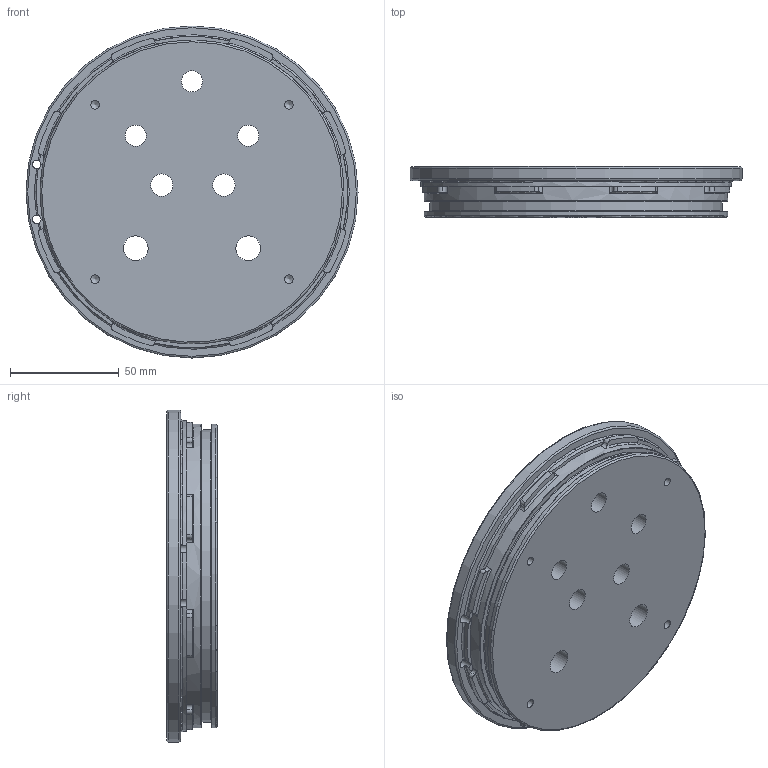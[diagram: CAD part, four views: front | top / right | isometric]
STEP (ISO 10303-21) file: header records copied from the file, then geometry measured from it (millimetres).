
FILE_DESCRIPTION(/* description */ ('ENDCAP, BUOYANCY ENGINE, ELECT'),/* implementation_level */ '2;1');
FILE_NAME(/* name */ 'D:\MSL_Vault\Project_Library\Barreleye\Sea Fligt Robotics\Buoyancy Engine\STEP\BD-PRT-0298-0002_RevC.stp',/* time_stamp */ '2020-10-09T14:39:36-04:00',/* author */ ('Jeremy Paulus'),/* organization */ (''),/* preprocessor_version */ 'ST-DEVELOPER v15.2',/* originating_system */ 'Autodesk Inventor 2014',/* authorisation */ '');
FILE_SCHEMA (('AUTOMOTIVE_DESIGN { 1 0 10303 214 3 1 1 }'));
Length unit declared in the file: inch
Products named in the file (1): BD-PRT-0298-0002
Bounding box: 152.4 x 23.18 x 152.4 mm (x, y, z)
Volume: 284413.3 mm3; surface area: 55317.9 mm2
Topology: 1 solids, 1 shells, 184 faces, 473 edges, 300 vertices
Faces by surface type: cylinder 92, torus 45, plane 43, cone 4
Full cylindrical faces by diameter (mm): 3.962 x6, 9.728 x3, 10.2 x2, 11.328 x2, 22.225 x3, 25.4 x2, 28.575 x2, 134.061 x1, 139.497 x2, 152.4 x1
Entity records: 5863 total; most frequent: CARTESIAN_POINT 1137, DIRECTION 1070, ORIENTED_EDGE 860, AXIS2_PLACEMENT_3D 479, EDGE_CURVE 430, CIRCLE 294, VERTEX_POINT 292, EDGE_LOOP 246
